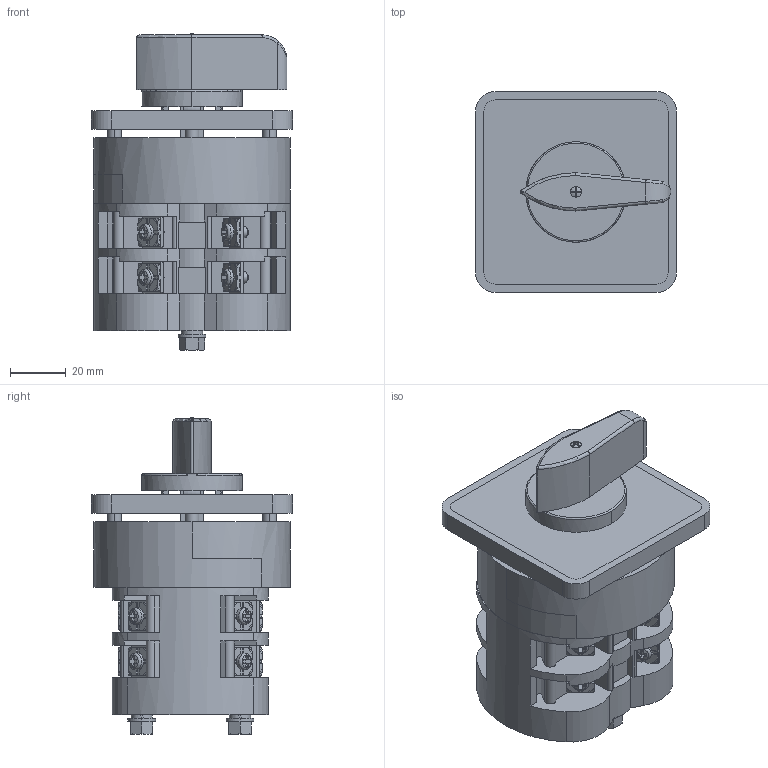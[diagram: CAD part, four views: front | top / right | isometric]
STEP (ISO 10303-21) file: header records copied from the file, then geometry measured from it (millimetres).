
FILE_DESCRIPTION((''),'2;1');
FILE_NAME('2470000100_SW0004','2025-04-08T',('sipei.wu'),(''),'PRO/ENGINEER BY PARAMETRIC TECHNOLOGY CORPORATION, 2015440','PRO/ENGINEER BY PARAMETRIC TECHNOLOGY CORPORATION, 2015440','');
FILE_SCHEMA(('CONFIG_CONTROL_DESIGN'));
Products named in the file (1): 2470000100_SW0004
Bounding box: 72 x 72 x 113.33 mm (x, y, z)
Volume: 233228.6 mm3; surface area: 83099.3 mm2
Topology: 1 solids, 16 shells, 1982 faces, 5536 edges, 3544 vertices
Faces by surface type: plane 1283, cylinder 540, cone 80, torus 56, sphere 18, bspline 5
Entity records: 65535 total; most frequent: CARTESIAN_POINT 13629, ORIENTED_EDGE 11072, DIRECTION 10767, EDGE_CURVE 5536, VECTOR 3625, LINE 3625, AXIS2_PLACEMENT_3D 3571, VERTEX_POINT 3544
